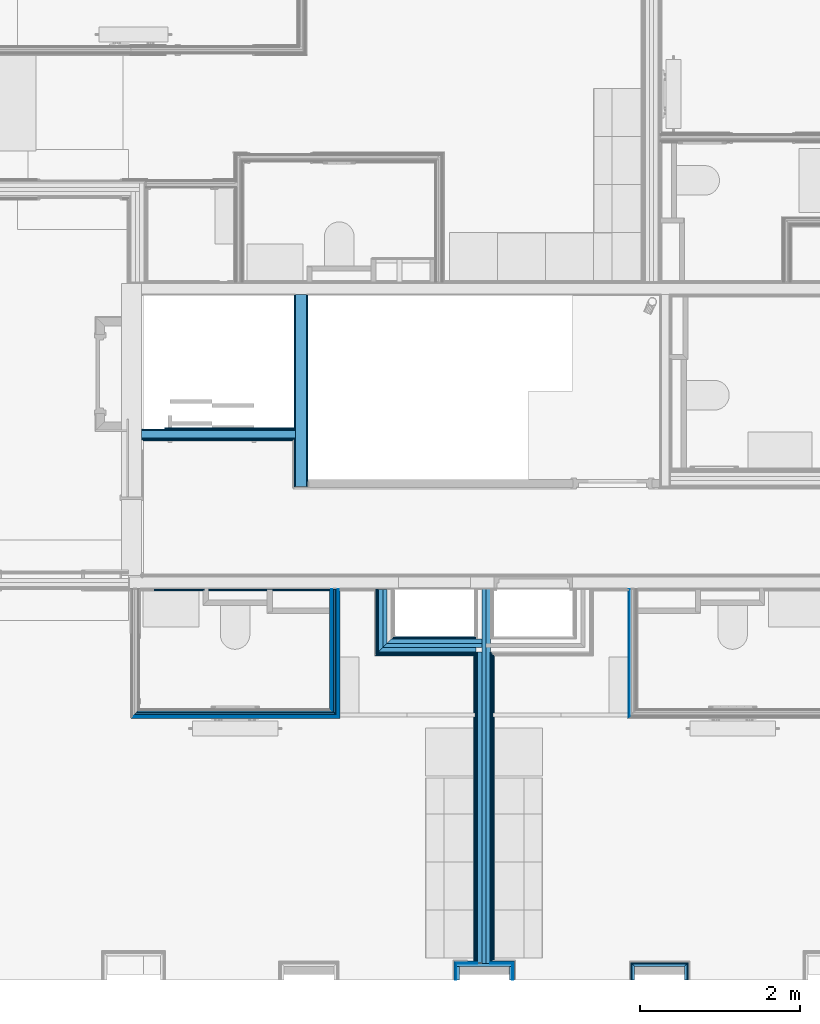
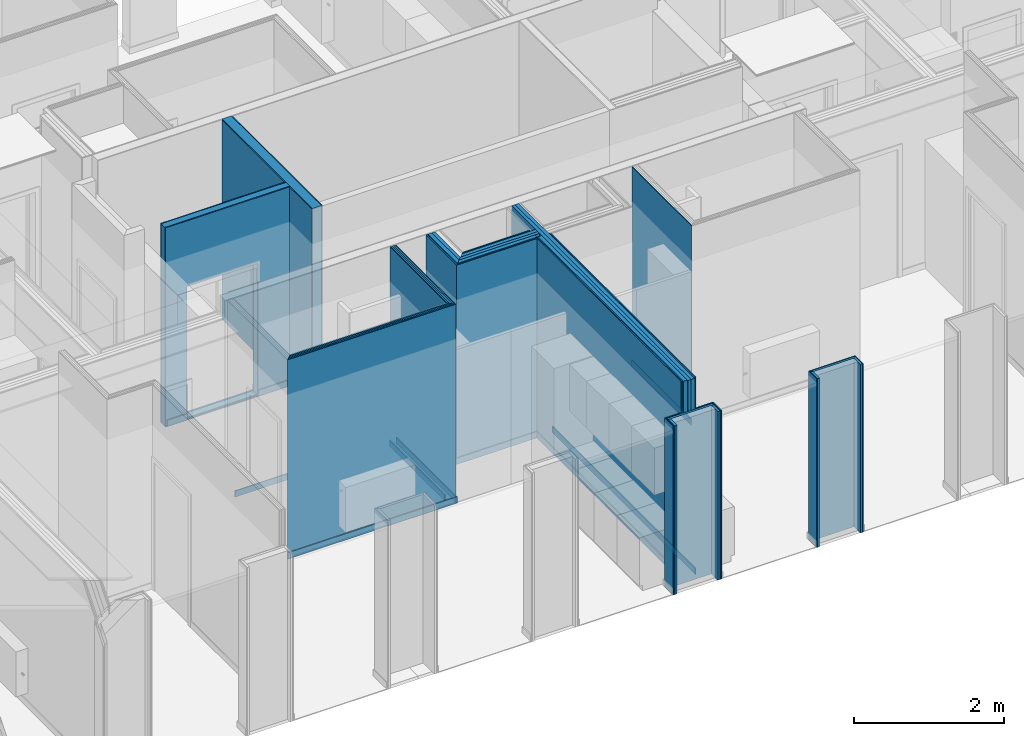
# One storey, part 14 of 65: 62 building element parts, 1 opening, 15 elements without a shape of their own.
"""IFC2X3 building model written with IfcOpenShell, lengths in metres."""

import ifcopenshell
import ifcopenshell.guid

model = None  # the IFC model being written
_history = None  # IfcOwnerHistory: only IFC2X3 demands one
_inside = {}  # id of a spatial element -> (the spatial element, [elements in it])
_under = {}  # id of a project, library or spatial element -> (it, [spatial elements below it])
_declared = {}  # id of a project -> (the project, [libraries it declares])
_typed = {}  # id of a type object -> (the type object, [elements of that type])
_made_of = {}  # id of a material, layer set ... -> (it, [elements and type objects made of it])


def new_model(schema):
    """Start an empty IFC model of exactly this schema.

    Asked for "IFC4X3", IfcOpenShell would pick the latest addendum, in which some entities
    have other attributes; the version numbers below select the first issue.
    IFC2X3 requires an IfcOwnerHistory on every rooted entity: one is made here for all.
    """
    global model, _history
    if schema == "IFC4X3":
        model = ifcopenshell.file(schema_version=(4, 3, 0, 0))
    else:
        model = ifcopenshell.file(schema=schema)
    _inside.clear()
    _under.clear()
    _declared.clear()
    _typed.clear()
    _made_of.clear()
    _history = None
    if model.schema == "IFC2X3":
        org = make("IfcOrganization", Name="unknown")
        user = make(
            "IfcPersonAndOrganization",
            ThePerson=make("IfcPerson", FamilyName="unknown"),
            TheOrganization=org,
        )
        app = make(
            "IfcApplication",
            ApplicationDeveloper=org,
            Version="unknown",
            ApplicationFullName="unknown",
            ApplicationIdentifier="unknown",
        )
        _history = make(
            "IfcOwnerHistory",
            OwningUser=user,
            OwningApplication=app,
            ChangeAction="ADDED",
            CreationDate=0,
        )
    return model


def make(cls, **values):
    """One entity of the class cls with the attributes given. An attribute that is None is left unset."""
    return model.create_entity(
        cls, **{name: value for name, value in values.items() if value is not None}
    )


def entity(cls, *values):
    """Any entity or typed value of the class cls, its attributes in the order of the schema. None: left unset."""
    e = model.create_entity(cls)
    for i, value in enumerate(values):
        if value is not None:
            e[i] = value
    return e


def rooted(cls, **values):
    """An entity with a GlobalId (a new one), such as an element, a storey or a relation."""
    return make(cls, GlobalId=ifcopenshell.guid.new(), OwnerHistory=_history, **values)


def si_unit(unit_type, name, prefix=None):
    """IfcSIUnit, for example si_unit("LENGTHUNIT", "METRE", prefix="MILLI")."""
    return make("IfcSIUnit", UnitType=unit_type, Prefix=prefix, Name=name)


def converted_unit(unit_type, name, factor, base, dimensions=None, offset=None):
    """IfcConversionBasedUnit, such as the inch: factor (a typed value) times the base unit."""
    return make(
        "IfcConversionBasedUnit"
        if offset is None
        else "IfcConversionBasedUnitWithOffset",
        ConversionOffset=offset,
        Dimensions=None
        if dimensions is None
        else entity("IfcDimensionalExponents", *dimensions),
        UnitType=unit_type,
        Name=name,
        ConversionFactor=make(
            "IfcMeasureWithUnit", ValueComponent=factor, UnitComponent=base
        ),
    )


def derived_unit(unit_type, elements):
    """IfcDerivedUnit: a product of units, each with its exponent."""
    return make(
        "IfcDerivedUnit",
        Elements=[
            make("IfcDerivedUnitElement", Unit=unit, Exponent=power)
            for unit, power in elements
        ],
        UnitType=unit_type,
    )


def money_unit(currency):
    """IfcMonetaryUnit."""
    return make("IfcMonetaryUnit", Currency=currency)


def assignment(units):
    """IfcUnitAssignment: the units of a project."""
    return None if units is None else make("IfcUnitAssignment", Units=units)


def point(xyz):
    """IfcCartesianPoint."""
    return None if xyz is None else make("IfcCartesianPoint", Coordinates=xyz)


def direction(xyz):
    """IfcDirection."""
    return None if xyz is None else make("IfcDirection", DirectionRatios=xyz)


def frame(location, z_axis=None, x_axis=None):
    """IfcAxis2Placement3D, a coordinate frame: its origin and axes. An axis left out is left unset."""
    return make(
        "IfcAxis2Placement3D",
        Location=point(location),
        Axis=direction(z_axis),
        RefDirection=direction(x_axis),
    )


def frame_2d(location, x_axis=None):
    """IfcAxis2Placement2D, a coordinate frame in the plane: its origin and x axis."""
    return make(
        "IfcAxis2Placement2D", Location=point(location), RefDirection=direction(x_axis)
    )


def origin_with_axes():
    """The frame at (0, 0, 0) with the z axis (0, 0, 1) and the x axis (1, 0, 0) written out."""
    return frame((0.0, 0.0, 0.0), z_axis=(0.0, 0.0, 1.0), x_axis=(1.0, 0.0, 0.0))


def place(relative_to, where):
    """IfcLocalPlacement: puts the frame where relative to a parent placement (None: the world)."""
    return make(
        "IfcLocalPlacement", PlacementRelTo=relative_to, RelativePlacement=where
    )


def context(
    kind, dimensions, precision=None, world=None, true_north=None, identifier=None
):
    """IfcGeometricRepresentationContext, for example the 3D "Model" context."""
    return make(
        "IfcGeometricRepresentationContext",
        ContextIdentifier=identifier,
        ContextType=kind,
        CoordinateSpaceDimension=dimensions,
        Precision=precision,
        WorldCoordinateSystem=world,
        TrueNorth=true_north,
    )


def subcontext(parent, identifier, kind, view, scale=None):
    """IfcGeometricRepresentationSubContext, for example "Body" below "Model"."""
    return make(
        "IfcGeometricRepresentationSubContext",
        ContextIdentifier=identifier,
        ContextType=kind,
        ParentContext=parent,
        TargetScale=scale,
        TargetView=view,
    )


def project(units=None, contexts=None):
    """IfcProject with its units and contexts."""
    return rooted(
        "IfcProject",
        Name="project",
        RepresentationContexts=contexts,
        UnitsInContext=assignment(units),
    )


def spatial(cls, under=None, at=None, **own):
    """A site, building, storey or space (cls), placed at a placement, below another one or the project."""
    s = rooted(cls, ObjectPlacement=at, **own)
    if under is not None:
        _under.setdefault(under.id(), (under, []))[1].append(s)
    return s


def polyline(points):
    """IfcPolyline through the points."""
    return make("IfcPolyline", Points=[point(p) for p in points])


def profile(cls, at=None, kind="AREA", **sizes):
    """A parametric profile (cls). Its sizes go by their IFC names, for example OverallWidth=200.0."""
    return make(cls, ProfileType=kind, Position=at, **sizes)


def rectangle(**sizes):
    """IfcRectangleProfileDef."""
    return profile("IfcRectangleProfileDef", **sizes)


def outline(outer, holes=None, kind="AREA"):
    """IfcArbitraryClosedProfileDef: a profile drawn as a closed curve; with holes, ...WithVoids."""
    if holes is None:
        return make("IfcArbitraryClosedProfileDef", ProfileType=kind, OuterCurve=outer)
    return make(
        "IfcArbitraryProfileDefWithVoids",
        ProfileType=kind,
        OuterCurve=outer,
        InnerCurves=holes,
    )


def extrude(swept, where, along, depth):
    """IfcExtrudedAreaSolid: the profile swept, set in the frame where, extruded along a direction by depth."""
    return make(
        "IfcExtrudedAreaSolid",
        SweptArea=swept,
        Position=where,
        ExtrudedDirection=direction(along),
        Depth=depth,
    )


def shape(context_of_items, identifier, shape_type, items):
    """IfcShapeRepresentation: the items that make up one representation, for example the "Body"."""
    return make(
        "IfcShapeRepresentation",
        ContextOfItems=context_of_items,
        RepresentationIdentifier=identifier,
        RepresentationType=shape_type,
        Items=items,
    )


def material(Name=None, Category=None):
    """IfcMaterial."""
    return make("IfcMaterial", Name=Name, Category=Category)


def made_of(thing, what):
    """Note that an element or type object is made of a material, layer set ...; save() writes the relation."""
    if what is not None:
        _made_of.setdefault(what.id(), (what, []))[1].append(thing)
    return thing


def type_object(cls, material=None, **own):
    """A type object (cls), such as IfcWallType, which elements share."""
    return made_of(rooted(cls, **own), material)


def element(
    cls,
    number,
    at=None,
    inside=None,
    cuts=None,
    type_object=None,
    material=None,
    context=None,
    identifier="Body",
    shape_type=None,
    held_by="IfcProductDefinitionShape",
    body=None,
    shapes=None,
    **own,
):
    """One element of the class cls, such as IfcWall. Its Tag is "e" and its number.

    at: its placement. inside: the storey or other place that contains it. cuts: it is an
    opening in that element (IfcRelVoidsElement). A single representation is given by context,
    identifier, shape_type and body (its items); several are given by shapes. held_by: the class
    of the entity that holds the representations. save() writes the other relations.
    """
    e = rooted(cls, Tag="e%d" % number, ObjectPlacement=at, **own)
    if body is not None:
        shapes = [shape(context, identifier, shape_type, body)]
    if shapes is not None:
        e.Representation = make(held_by, Representations=shapes)
    if inside is not None:
        _inside.setdefault(inside.id(), (inside, []))[1].append(e)
    if cuts is not None:
        rooted(
            "IfcRelVoidsElement", RelatingBuildingElement=cuts, RelatedOpeningElement=e
        )
    if type_object is not None:
        _typed.setdefault(type_object.id(), (type_object, []))[1].append(e)
    return made_of(e, material)


def aggregate(whole, parts):
    """IfcRelAggregates: a whole, such as a stair, and the parts it consists of."""
    return rooted("IfcRelAggregates", RelatingObject=whole, RelatedObjects=parts)


def save(model, path):
    """Write the relations noted so far, then the file.

    IfcRelAggregates (storeys below a building ...), IfcRelContainedInSpatialStructure (elements
    in a storey), IfcRelDefinesByType, IfcRelAssociatesMaterial and IfcRelDeclares: one each for
    every whole, place, type object, material and project.
    """
    for whole, parts in _under.values():
        aggregate(whole, parts)
    for where, things in _inside.values():
        rooted(
            "IfcRelContainedInSpatialStructure",
            RelatedElements=things,
            RelatingStructure=where,
        )
    for kind, things in _typed.values():
        rooted("IfcRelDefinesByType", RelatedObjects=things, RelatingType=kind)
    for what, things in _made_of.values():
        rooted("IfcRelAssociatesMaterial", RelatedObjects=things, RelatingMaterial=what)
    for by, libraries in _declared.values():
        rooted("IfcRelDeclares", RelatingContext=by, RelatedDefinitions=libraries)
    model.write(path)


model = new_model("IFC2X3")

# Units and contexts
model_context = context("Model", 3, precision=1e-05, world=origin_with_axes(), true_north=direction((0.0, 1.0)))
body_context = subcontext(model_context, "Body", "Model", "MODEL_VIEW", scale=1.0)
ifc_project = project(units=[si_unit("LENGTHUNIT", "METRE"), si_unit("AREAUNIT", "SQUARE_METRE"), si_unit("VOLUMEUNIT", "CUBIC_METRE"), si_unit("ABSORBEDDOSEUNIT", "GRAY"), si_unit("AMOUNTOFSUBSTANCEUNIT", "MOLE"), si_unit("DOSEEQUIVALENTUNIT", "SIEVERT"), si_unit("ELECTRICCAPACITANCEUNIT", "FARAD"), si_unit("ELECTRICCHARGEUNIT", "COULOMB"), si_unit("ELECTRICCONDUCTANCEUNIT", "SIEMENS"), si_unit("ELECTRICCURRENTUNIT", "AMPERE"), si_unit("ELECTRICRESISTANCEUNIT", "OHM"), si_unit("ELECTRICVOLTAGEUNIT", "VOLT"), si_unit("ENERGYUNIT", "JOULE"), si_unit("FORCEUNIT", "NEWTON"), si_unit("FREQUENCYUNIT", "HERTZ"), si_unit("ILLUMINANCEUNIT", "LUX"), si_unit("INDUCTANCEUNIT", "HENRY"), si_unit("LUMINOUSFLUXUNIT", "LUMEN"), si_unit("LUMINOUSINTENSITYUNIT", "CANDELA"), si_unit("MAGNETICFLUXDENSITYUNIT", "TESLA"), si_unit("MAGNETICFLUXUNIT", "WEBER"), si_unit("MASSUNIT", "GRAM"), converted_unit("PLANEANGLEUNIT", "degree", entity("IfcReal", 0.0174532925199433), si_unit("PLANEANGLEUNIT", "RADIAN"), dimensions=[0, 0, 0, 0, 0, 0, 0]), si_unit("POWERUNIT", "WATT"), si_unit("PRESSUREUNIT", "PASCAL"), si_unit("RADIOACTIVITYUNIT", "BECQUEREL"), si_unit("SOLIDANGLEUNIT", "STERADIAN"), si_unit("THERMODYNAMICTEMPERATUREUNIT", "KELVIN"), si_unit("TIMEUNIT", "SECOND"), derived_unit("ACCELERATIONUNIT", [(si_unit("LENGTHUNIT", "METRE"), 1), (si_unit("TIMEUNIT", "SECOND"), -2)]), derived_unit("ANGULARVELOCITYUNIT", [(converted_unit("PLANEANGLEUNIT", "degree", entity("IfcReal", 0.0174532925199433), si_unit("PLANEANGLEUNIT", "RADIAN"), dimensions=[0, 0, 0, 0, 0, 0, 0]), 1), (si_unit("TIMEUNIT", "SECOND"), -1)]), derived_unit("CURVATUREUNIT", [(converted_unit("PLANEANGLEUNIT", "degree", entity("IfcReal", 0.0174532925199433), si_unit("PLANEANGLEUNIT", "RADIAN"), dimensions=[0, 0, 0, 0, 0, 0, 0]), 1), (si_unit("LENGTHUNIT", "METRE"), -1)]), derived_unit("DYNAMICVISCOSITYUNIT", [(si_unit("PRESSUREUNIT", "PASCAL"), 1), (si_unit("TIMEUNIT", "SECOND"), 1)]), derived_unit("HEATFLUXDENSITYUNIT", [(si_unit("POWERUNIT", "WATT"), 1), (si_unit("LENGTHUNIT", "METRE"), -2)]), derived_unit("HEATINGVALUEUNIT", [(si_unit("ENERGYUNIT", "JOULE"), 1), (si_unit("MASSUNIT", "GRAM"), -1)]), derived_unit("INTEGERCOUNTRATEUNIT", [(si_unit("TIMEUNIT", "SECOND"), -1)]), derived_unit("IONCONCENTRATIONUNIT", [(si_unit("MASSUNIT", "GRAM"), 1), (si_unit("VOLUMEUNIT", "CUBIC_METRE"), -1)]), derived_unit("ISOTHERMALMOISTURECAPACITYUNIT", [(si_unit("VOLUMEUNIT", "CUBIC_METRE"), 1), (si_unit("MASSUNIT", "GRAM"), -1)]), derived_unit("KINEMATICVISCOSITYUNIT", [(si_unit("AREAUNIT", "SQUARE_METRE"), 1), (si_unit("TIMEUNIT", "SECOND"), -1)]), derived_unit("LINEARFORCEUNIT", [(si_unit("FORCEUNIT", "NEWTON"), 1), (si_unit("LENGTHUNIT", "METRE"), -1)]), derived_unit("LINEARMOMENTUNIT", [(si_unit("FORCEUNIT", "NEWTON"), 1), (si_unit("LENGTHUNIT", "METRE"), -1)]), derived_unit("LINEARSTIFFNESSUNIT", [(si_unit("FORCEUNIT", "NEWTON"), 1), (si_unit("LENGTHUNIT", "METRE"), -1)]), derived_unit("LINEARVELOCITYUNIT", [(si_unit("LENGTHUNIT", "METRE"), 1), (si_unit("TIMEUNIT", "SECOND"), -1)]), derived_unit("LUMINOUSINTENSITYDISTRIBUTIONUNIT", [(si_unit("LUMINOUSINTENSITYUNIT", "CANDELA"), 1), (si_unit("LUMINOUSFLUXUNIT", "LUMEN"), -1)]), derived_unit("MASSDENSITYUNIT", [(si_unit("MASSUNIT", "GRAM"), 1), (si_unit("VOLUMEUNIT", "CUBIC_METRE"), -1)]), derived_unit("MASSFLOWRATEUNIT", [(si_unit("MASSUNIT", "GRAM"), 1), (si_unit("TIMEUNIT", "SECOND"), -1)]), derived_unit("MASSPERLENGTHUNIT", [(si_unit("MASSUNIT", "GRAM"), 1), (si_unit("LENGTHUNIT", "METRE"), -1)]), derived_unit("MODULUSOFELASTICITYUNIT", [(si_unit("FORCEUNIT", "NEWTON"), 1), (si_unit("AREAUNIT", "SQUARE_METRE"), -1)]), derived_unit("MODULUSOFLINEARSUBGRADEREACTIONUNIT", [(si_unit("FORCEUNIT", "NEWTON"), 1), (si_unit("LENGTHUNIT", "METRE"), -2)]), derived_unit("MODULUSOFROTATIONALSUBGRADEREACTIONUNIT", [(si_unit("FORCEUNIT", "NEWTON"), 1), (si_unit("LENGTHUNIT", "METRE"), 1)]), derived_unit("MODULUSOFSUBGRADEREACTIONUNIT", [(si_unit("FORCEUNIT", "NEWTON"), 1), (si_unit("VOLUMEUNIT", "CUBIC_METRE"), -1)]), derived_unit("MOISTUREDIFFUSIVITYUNIT", [(si_unit("VOLUMEUNIT", "CUBIC_METRE"), 1), (si_unit("TIMEUNIT", "SECOND"), -1)]), derived_unit("MOLECULARWEIGHTUNIT", [(si_unit("MASSUNIT", "GRAM"), 1), (si_unit("AMOUNTOFSUBSTANCEUNIT", "MOLE"), -1)]), derived_unit("PLANARFORCEUNIT", [(si_unit("FORCEUNIT", "NEWTON"), 1), (si_unit("LENGTHUNIT", "METRE"), -2)]), derived_unit("ROTATIONALFREQUENCYUNIT", [(si_unit("TIMEUNIT", "SECOND"), -1)]), derived_unit("ROTATIONALMASSUNIT", [(si_unit("MASSUNIT", "GRAM"), 1), (si_unit("LENGTHUNIT", "METRE"), 2)]), derived_unit("ROTATIONALSTIFFNESSUNIT", [(si_unit("FORCEUNIT", "NEWTON"), 1), (si_unit("LENGTHUNIT", "METRE"), 1), (converted_unit("PLANEANGLEUNIT", "degree", entity("IfcReal", 0.0174532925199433), si_unit("PLANEANGLEUNIT", "RADIAN"), dimensions=[0, 0, 0, 0, 0, 0, 0]), -1)]), derived_unit("SECTIONAREAINTEGRALUNIT", [(si_unit("LENGTHUNIT", "METRE"), 5)]), derived_unit("SECTIONMODULUSUNIT", [(si_unit("LENGTHUNIT", "METRE"), 3)]), derived_unit("SHEARMODULUSUNIT", [(si_unit("FORCEUNIT", "NEWTON"), 1), (si_unit("AREAUNIT", "SQUARE_METRE"), -1)]), derived_unit("SOUNDPOWERUNIT", [(si_unit("ENERGYUNIT", "JOULE"), 1), (si_unit("TIMEUNIT", "SECOND"), -1)]), derived_unit("SPECIFICHEATCAPACITYUNIT", [(si_unit("FORCEUNIT", "NEWTON"), 1), (si_unit("MASSUNIT", "GRAM"), -1), (si_unit("THERMODYNAMICTEMPERATUREUNIT", "KELVIN"), -1)]), derived_unit("TEMPERATUREGRADIENTUNIT", [(si_unit("THERMODYNAMICTEMPERATUREUNIT", "KELVIN"), 1), (si_unit("LENGTHUNIT", "METRE"), -1)]), derived_unit("THERMALADMITTANCEUNIT", [(si_unit("POWERUNIT", "WATT"), 1), (si_unit("AREAUNIT", "SQUARE_METRE"), -1), (si_unit("THERMODYNAMICTEMPERATUREUNIT", "KELVIN"), -1)]), derived_unit("THERMALCONDUCTANCEUNIT", [(si_unit("POWERUNIT", "WATT"), 1), (si_unit("LENGTHUNIT", "METRE"), -1), (si_unit("THERMODYNAMICTEMPERATUREUNIT", "KELVIN"), -1)]), derived_unit("THERMALEXPANSIONCOEFFICIENTUNIT", [(si_unit("THERMODYNAMICTEMPERATUREUNIT", "KELVIN"), -1)]), derived_unit("THERMALRESISTANCEUNIT", [(si_unit("AREAUNIT", "SQUARE_METRE"), 1), (si_unit("POWERUNIT", "WATT"), -1)]), derived_unit("THERMALTRANSMITTANCEUNIT", [(si_unit("POWERUNIT", "WATT"), 1), (si_unit("AREAUNIT", "SQUARE_METRE"), -1), (si_unit("THERMODYNAMICTEMPERATUREUNIT", "KELVIN"), -1)]), derived_unit("TORQUEUNIT", [(si_unit("FORCEUNIT", "NEWTON"), 1), (si_unit("LENGTHUNIT", "METRE"), 1)]), derived_unit("VAPORPERMEABILITYUNIT", [(si_unit("MASSUNIT", "GRAM"), 1), (si_unit("TIMEUNIT", "SECOND"), -1)]), derived_unit("VOLUMETRICFLOWRATEUNIT", [(si_unit("VOLUMEUNIT", "CUBIC_METRE"), 1), (si_unit("TIMEUNIT", "SECOND"), -1)]), derived_unit("WARPINGCONSTANTUNIT", [(si_unit("LENGTHUNIT", "METRE"), 6)]), derived_unit("WARPINGMOMENTUNIT", [(si_unit("FORCEUNIT", "NEWTON"), 1), (si_unit("LENGTHUNIT", "METRE"), 2)]), money_unit("GBP")], contexts=[model_context])

# Site, building, storey
site_placement = place(None, origin_with_axes())
site = spatial("IfcSite", under=ifc_project, at=site_placement, Name="Site", CompositionType="ELEMENT")
building_placement = place(site_placement, origin_with_axes())
building = spatial("IfcBuilding", under=site, at=building_placement, Name="Building01", CompositionType="ELEMENT")
storey_placement = place(building_placement, frame((0.0, 0.0, 8.64), z_axis=(0.0, 0.0, 1.0), x_axis=(1.0, 0.0, 0.0)))
storey = spatial("IfcBuildingStorey", under=building, at=storey_placement, Name="2F", CompositionType="ELEMENT", Elevation=8.64)

# Wall, opening, building element parts
wall_type_1 = type_object("IfcWallType", Name="SHE_A-Walls_Type04a_BlockworkWall_130mm", PredefinedType="NOTDEFINED")
wall_1_placement = place(storey_placement, frame((11.145, 6.965, 0.0), z_axis=(0.0, 0.0, 1.0), x_axis=(-1.0, 0.0, 0.0)))
wall_1 = element("IfcWall", 1, at=wall_1_placement, inside=storey, type_object=wall_type_1, Name="4A", ObjectType="SHE_A-Walls_Type04a_BlockworkWall_130mm")
opening_placement = place(wall_1_placement, frame((0.5, -0.03, 0.03), z_axis=(0.0, 0.0, 1.0), x_axis=(1.0, 0.0, 0.0)))
element("IfcOpeningElement", 2, at=opening_placement, cuts=wall_1, Name="Opening", ObjectType="Opening", context=body_context, shape_type="SweptSolid", body=[
    extrude(rectangle(XDim=2.14, YDim=1.09, at=frame_2d((-0.545, 1.07), x_axis=(0.0, -1.0))), frame((0.0, 0.0, 0.0), z_axis=(0.0, 1.0, 0.0), x_axis=(-1.0, 0.0, 0.0)), (0.0, 0.0, 1.0), 0.16),
])
ifc_material_1 = material(Name="A_BSUK_Walls_Timber")
placement_1 = place(wall_1_placement, origin_with_axes())
building_element_part_1 = element("IfcBuildingElementPart", 3, at=placement_1, material=ifc_material_1, Name="1", context=body_context, shape_type="SweptSolid", body=[
    extrude(outline(polyline([(0.0, -0.015), (0.015, -0.03), (1.633302, -0.03), (1.633302, -0.015), (0.0, -0.015)])), frame((0.0, 0.0, 0.015), z_axis=(0.0, 0.0, 1.0), x_axis=(1.0, 0.0, 0.0)), (0.0, 0.0, 1.0), 0.1),
])
ifc_material_2 = material(Name="A_BSUK_WallInternal_Finishes_Plasterboard")
building_element_part_2 = element("IfcBuildingElementPart", 4, at=placement_1, material=ifc_material_2, Name="2", context=body_context, shape_type="SweptSolid", body=[
    extrude(outline(polyline([(1.92, 0.0), (0.0, 0.0), (0.015, -0.015), (1.92, -0.015), (1.92, 0.0)])), origin_with_axes(), (0.0, 0.0, 1.0), 3.24),
])
ifc_material_3 = material(Name="A_BSUK_WallsInternal_Block")
building_element_part_3 = element("IfcBuildingElementPart", 5, at=placement_1, material=ifc_material_3, Name="3", context=body_context, shape_type="SweptSolid", body=[
    extrude(rectangle(XDim=1.92, YDim=0.1, at=frame_2d((0.96, 0.05), x_axis=(-1.0, 0.0))), origin_with_axes(), (0.0, 0.0, 1.0), 3.24),
])
ifc_material_4 = material(Name="A_BSUK_WallInternal_Finishes_Plaster")
building_element_part_4 = element("IfcBuildingElementPart", 6, at=placement_1, material=ifc_material_4, Name="4", context=body_context, shape_type="SweptSolid", body=[
    extrude(outline(polyline([(1.92, 0.115), (0.015, 0.115), (0.0, 0.1), (1.92, 0.1), (1.92, 0.115)])), origin_with_axes(), (0.0, 0.0, 1.0), 3.24),
])
building_element_part_5 = element("IfcBuildingElementPart", 7, at=placement_1, material=ifc_material_1, Name="5", context=body_context, shape_type="SweptSolid", body=[
    extrude(outline(polyline([(1.9, 0.13), (0.03, 0.13), (0.015, 0.115), (1.9, 0.115), (1.9, 0.13)])), frame((0.0, 0.0, 0.015), z_axis=(0.0, 0.0, 1.0), x_axis=(1.0, 0.0, 0.0)), (0.0, 0.0, 1.0), 0.1),
])
aggregate(wall_1, [building_element_part_1, building_element_part_2, building_element_part_3, building_element_part_4, building_element_part_5])

# Wall, building element parts
wall_type_2 = type_object("IfcWallType", Name="SHE_A-Walls_Type03a_BlockworkWall_170mm", PredefinedType="NOTDEFINED")
wall_2_placement = place(storey_placement, frame((11.145, 6.263, 0.0), z_axis=(0.0, 0.0, 1.0), x_axis=(0.0, 1.0, 0.0)))
wall_2 = element("IfcWall", 8, at=wall_2_placement, inside=storey, type_object=wall_type_2, Name="4B", ObjectType="SHE_A-Walls_Type03a_BlockworkWall_170mm")
placement_2 = place(wall_2_placement, origin_with_axes())
building_element_part_6 = element("IfcBuildingElementPart", 9, at=placement_2, material=ifc_material_2, Name="2", context=body_context, shape_type="SweptSolid", body=[
    extrude(rectangle(XDim=2.387, YDim=0.015, at=frame_2d((1.1935, -0.1475), x_axis=(-1.0, 0.0))), origin_with_axes(), (0.0, 0.0, 1.0), 3.24),
])
building_element_part_7 = element("IfcBuildingElementPart", 10, at=placement_2, material=ifc_material_3, Name="3", context=body_context, shape_type="SweptSolid", body=[
    extrude(rectangle(XDim=2.402, YDim=0.14, at=frame_2d((1.201, -0.07), x_axis=(-1.0, 0.0))), origin_with_axes(), (0.0, 0.0, 1.0), 3.24),
])
building_element_part_8 = element("IfcBuildingElementPart", 11, at=placement_2, material=ifc_material_4, Name="4", context=body_context, shape_type="SweptSolid", body=[
    extrude(outline(polyline([(0.587, 0.015), (0.0, 0.015), (0.0, 0.0), (0.602, 0.0), (0.587, 0.015)])), origin_with_axes(), (0.0, 0.0, 1.0), 3.24),
])
building_element_part_9 = element("IfcBuildingElementPart", 12, at=placement_2, material=ifc_material_4, Name="5", context=body_context, shape_type="SweptSolid", body=[
    extrude(outline(polyline([(2.387, 0.015), (0.717, 0.015), (0.702, 0.0), (2.387, 0.0), (2.387, 0.015)])), origin_with_axes(), (0.0, 0.0, 1.0), 3.24),
])
aggregate(wall_2, [building_element_part_6, building_element_part_7, building_element_part_8, building_element_part_9])

wall_type_3 = type_object("IfcWallType", Name="SHE_A-Walls_Type06d_ExternalWallInsulation_48mm", PredefinedType="NOTDEFINED")
wall_3_placement = place(storey_placement, frame((15.383, 0.1, 0.0), z_axis=(0.0, 0.0, 1.0), x_axis=(0.0, 1.0, 0.0)))
wall_3 = element("IfcWall", 13, at=wall_3_placement, inside=storey, type_object=wall_type_3, Name="6D", ObjectType="SHE_A-Walls_Type06d_ExternalWallInsulation_48mm")
ifc_material_5 = material(Name="A_BSUK_Insulation")
placement_3 = place(wall_3_placement, origin_with_axes())
building_element_part_10 = element("IfcBuildingElementPart", 14, at=placement_3, material=ifc_material_5, Name="1", context=body_context, shape_type="SweptSolid", body=[
    extrude(outline(polyline([(0.206, 0.036), (0.0, 0.036), (0.0, 0.0), (0.17, 0.0), (0.206, 0.036)])), origin_with_axes(), (0.0, 0.0, 1.0), 2.74),
])
building_element_part_11 = element("IfcBuildingElementPart", 15, at=placement_3, material=ifc_material_2, Name="2", context=body_context, shape_type="SweptSolid", body=[
    extrude(outline(polyline([(0.218, 0.048), (0.0, 0.048), (0.0, 0.035), (0.205, 0.035), (0.218, 0.048)])), origin_with_axes(), (0.0, 0.0, 1.0), 2.74),
])
aggregate(wall_3, [building_element_part_10, building_element_part_11])

wall_4_placement = place(storey_placement, frame((15.383, 0.27, 0.0), z_axis=(0.0, 0.0, 1.0), x_axis=(1.0, 0.0, 0.0)))
wall_4 = element("IfcWall", 16, at=wall_4_placement, inside=storey, type_object=wall_type_3, Name="6D", ObjectType="SHE_A-Walls_Type06d_ExternalWallInsulation_48mm")
placement_4 = place(wall_4_placement, origin_with_axes())
building_element_part_12 = element("IfcBuildingElementPart", 17, at=placement_4, material=ifc_material_5, Name="1", context=body_context, shape_type="SweptSolid", body=[
    extrude(outline(polyline([(0.66, 0.036), (-0.036, 0.036), (0.0, 0.0), (0.624, 0.0), (0.66, 0.036)])), origin_with_axes(), (0.0, 0.0, 1.0), 2.74),
])
building_element_part_13 = element("IfcBuildingElementPart", 18, at=placement_4, material=ifc_material_2, Name="2", context=body_context, shape_type="SweptSolid", body=[
    extrude(outline(polyline([(0.672, 0.048), (-0.048, 0.048), (-0.035, 0.035), (0.659, 0.035), (0.672, 0.048)])), origin_with_axes(), (0.0, 0.0, 1.0), 2.74),
])
aggregate(wall_4, [building_element_part_12, building_element_part_13])

wall_5_placement = place(storey_placement, frame((16.007, 0.27, 0.0), z_axis=(0.0, 0.0, 1.0), x_axis=(0.0, -1.0, 0.0)))
wall_5 = element("IfcWall", 19, at=wall_5_placement, inside=storey, type_object=wall_type_3, Name="6D", ObjectType="SHE_A-Walls_Type06d_ExternalWallInsulation_48mm")
placement_5 = place(wall_5_placement, origin_with_axes())
building_element_part_14 = element("IfcBuildingElementPart", 20, at=placement_5, material=ifc_material_5, Name="1", context=body_context, shape_type="SweptSolid", body=[
    extrude(outline(polyline([(-0.036, 0.036), (0.0, 0.0), (0.17, 0.0), (0.17, 0.036), (-0.036, 0.036)])), origin_with_axes(), (0.0, 0.0, 1.0), 2.74),
])
building_element_part_15 = element("IfcBuildingElementPart", 21, at=placement_5, material=ifc_material_2, Name="2", context=body_context, shape_type="SweptSolid", body=[
    extrude(outline(polyline([(-0.048, 0.048), (-0.035, 0.035), (0.17, 0.035), (0.17, 0.048), (-0.048, 0.048)])), origin_with_axes(), (0.0, 0.0, 1.0), 2.74),
])
aggregate(wall_5, [building_element_part_14, building_element_part_15])

wall_type_4 = type_object("IfcWallType", Name="SHE_A-Walls_Type01c_Partywall_225mm_twin_tall", PredefinedType="NOTDEFINED")
wall_6_placement = place(storey_placement, frame((12.288, 4.302428, 0.0), z_axis=(0.0, 0.0, 1.0), x_axis=(1.0, 0.0, 0.0)))
wall_6 = element("IfcWall", 22, at=wall_6_placement, inside=storey, type_object=wall_type_4, Name="1C", ObjectType="SHE_A-Walls_Type01c_Partywall_225mm_twin_tall")
placement_6 = place(wall_6_placement, origin_with_axes())
building_element_part_16 = element("IfcBuildingElementPart", 23, at=placement_6, material=ifc_material_1, Name="1", context=body_context, shape_type="SweptSolid", body=[
    extrude(rectangle(XDim=1.2375, YDim=0.015, at=frame_2d((0.46575, -0.1455), x_axis=(-1.0, 0.0))), frame((0.0, 0.0, 0.015), z_axis=(0.0, 0.0, 1.0), x_axis=(1.0, 0.0, 0.0)), (0.0, 0.0, 1.0), 0.1),
])
building_element_part_17 = element("IfcBuildingElementPart", 24, at=placement_6, material=ifc_material_2, Name="2", context=body_context, shape_type="SweptSolid", body=[
    extrude(outline(polyline([(1.0995, -0.123), (-0.123, -0.123), (-0.138, -0.138), (1.0995, -0.138), (1.0995, -0.123)])), origin_with_axes(), (0.0, 0.0, 1.0), 3.24),
])
building_element_part_18 = element("IfcBuildingElementPart", 25, at=placement_6, material=ifc_material_2, Name="3", context=body_context, shape_type="SweptSolid", body=[
    extrude(outline(polyline([(1.1145, -0.108), (-0.108, -0.108), (-0.123, -0.123), (1.1145, -0.123), (1.1145, -0.108)])), origin_with_axes(), (0.0, 0.0, 1.0), 3.24),
])
ifc_material_6 = material(Name="Air Cavity")
building_element_part_19 = element("IfcBuildingElementPart", 26, at=placement_6, material=ifc_material_6, Name="4", context=body_context, shape_type="SweptSolid", body=[
    extrude(outline(polyline([(1.1145, -0.05), (-0.05, -0.05), (-0.108, -0.108), (1.1145, -0.108), (1.1145, -0.05)])), origin_with_axes(), (0.0, 0.0, 1.0), 3.24),
])
building_element_part_20 = element("IfcBuildingElementPart", 27, at=placement_6, material=ifc_material_5, Name="5", context=body_context, shape_type="SweptSolid", body=[
    extrude(outline(polyline([(1.1875, 0.0), (0.0, 0.0), (-0.05, -0.05), (1.1875, -0.05), (1.1875, 0.0)])), origin_with_axes(), (0.0, 0.0, 1.0), 3.24),
])
building_element_part_21 = element("IfcBuildingElementPart", 28, at=placement_6, material=ifc_material_6, Name="6", context=body_context, shape_type="SweptSolid", body=[
    extrude(outline(polyline([(1.1875, 0.057), (0.057, 0.057), (0.0, 0.0), (1.1875, 0.0), (1.1875, 0.057)])), origin_with_axes(), (0.0, 0.0, 1.0), 3.24),
])
building_element_part_22 = element("IfcBuildingElementPart", 29, at=placement_6, material=ifc_material_2, Name="7", context=body_context, shape_type="SweptSolid", body=[
    extrude(outline(polyline([(1.1145, 0.072), (0.072, 0.072), (0.057, 0.057), (1.1145, 0.057), (1.1145, 0.072)])), origin_with_axes(), (0.0, 0.0, 1.0), 3.24),
])
building_element_part_23 = element("IfcBuildingElementPart", 30, at=placement_6, material=ifc_material_2, Name="8", context=body_context, shape_type="SweptSolid", body=[
    extrude(outline(polyline([(1.1145, 0.087), (0.087, 0.087), (0.072, 0.072), (1.1145, 0.072), (1.1145, 0.087)])), origin_with_axes(), (0.0, 0.0, 1.0), 3.24),
])
aggregate(wall_6, [building_element_part_16, building_element_part_17, building_element_part_18, building_element_part_19, building_element_part_20, building_element_part_21, building_element_part_22, building_element_part_23])

wall_7_placement = place(storey_placement, frame((13.5005, 4.995, 0.0), z_axis=(0.0, 0.0, 1.0), x_axis=(0.0, -1.0, 0.0)))
wall_7 = element("IfcWall", 31, at=wall_7_placement, inside=storey, type_object=wall_type_4, Name="1C", ObjectType="SHE_A-Walls_Type01c_Partywall_225mm_twin_tall")
placement_7 = place(wall_7_placement, origin_with_axes())
building_element_part_24 = element("IfcBuildingElementPart", 32, at=placement_7, material=ifc_material_1, Name="1", context=body_context, shape_type="SweptSolid", body=[
    extrude(rectangle(XDim=3.831428, YDim=0.015, at=frame_2d((2.746286, -0.1205), x_axis=(-1.0, 0.0))), frame((0.0, 0.0, 0.015), z_axis=(0.0, 0.0, 1.0), x_axis=(1.0, 0.0, 0.0)), (0.0, 0.0, 1.0), 0.1),
])
building_element_part_25 = element("IfcBuildingElementPart", 33, at=placement_7, material=ifc_material_2, Name="3", context=body_context, shape_type="SweptSolid", body=[
    extrude(rectangle(XDim=3.846428, YDim=0.015, at=frame_2d((2.738786, -0.1055), x_axis=(-1.0, 0.0))), origin_with_axes(), (0.0, 0.0, 1.0), 3.24),
])
building_element_part_26 = element("IfcBuildingElementPart", 34, at=placement_7, material=ifc_material_2, Name="5", context=body_context, shape_type="SweptSolid", body=[
    extrude(rectangle(XDim=3.876428, YDim=0.015, at=frame_2d((2.738786, -0.0905), x_axis=(-1.0, 0.0))), origin_with_axes(), (0.0, 0.0, 1.0), 3.24),
])
building_element_part_27 = element("IfcBuildingElementPart", 35, at=placement_7, material=ifc_material_6, Name="6", context=body_context, shape_type="SweptSolid", body=[
    extrude(rectangle(XDim=3.876428, YDim=0.058, at=frame_2d((2.738786, -0.054), x_axis=(-1.0, 0.0))), origin_with_axes(), (0.0, 0.0, 1.0), 3.24),
])
building_element_part_28 = element("IfcBuildingElementPart", 36, at=placement_7, material=ifc_material_5, Name="7", context=body_context, shape_type="SweptSolid", body=[
    extrude(rectangle(XDim=4.689, YDim=0.05, at=frame_2d((2.3445, 0.0), x_axis=(-1.0, 0.0))), origin_with_axes(), (0.0, 0.0, 1.0), 3.24),
])
building_element_part_29 = element("IfcBuildingElementPart", 37, at=placement_7, material=ifc_material_6, Name="8", context=body_context, shape_type="SweptSolid", body=[
    extrude(rectangle(XDim=4.689, YDim=0.057, at=frame_2d((2.3445, 0.0535), x_axis=(-1.0, 0.0))), origin_with_axes(), (0.0, 0.0, 1.0), 3.24),
])
building_element_part_30 = element("IfcBuildingElementPart", 38, at=placement_7, material=ifc_material_2, Name="10", context=body_context, shape_type="SweptSolid", body=[
    extrude(rectangle(XDim=3.876428, YDim=0.015, at=frame_2d((2.738786, 0.0895), x_axis=(-1.0, 0.0))), origin_with_axes(), (0.0, 0.0, 1.0), 3.24),
])
building_element_part_31 = element("IfcBuildingElementPart", 39, at=placement_7, material=ifc_material_2, Name="12", context=body_context, shape_type="SweptSolid", body=[
    extrude(rectangle(XDim=3.846428, YDim=0.015, at=frame_2d((2.738786, 0.1045), x_axis=(-1.0, 0.0))), origin_with_axes(), (0.0, 0.0, 1.0), 3.24),
])
building_element_part_32 = element("IfcBuildingElementPart", 40, at=placement_7, material=ifc_material_1, Name="13", context=body_context, shape_type="SweptSolid", body=[
    extrude(rectangle(XDim=3.816428, YDim=0.015, at=frame_2d((2.738786, 0.1195), x_axis=(-1.0, 0.0))), frame((0.0, 0.0, 0.015), z_axis=(0.0, 0.0, 1.0), x_axis=(1.0, 0.0, 0.0)), (0.0, 0.0, 1.0), 0.1),
])
aggregate(wall_7, [building_element_part_24, building_element_part_25, building_element_part_26, building_element_part_27, building_element_part_28, building_element_part_29, building_element_part_30, building_element_part_31, building_element_part_32])

wall_8_placement = place(storey_placement, frame((12.288, 4.98, 0.0), z_axis=(0.0, 0.0, 1.0), x_axis=(0.0, -1.0, 0.0)))
wall_8 = element("IfcWall", 41, at=wall_8_placement, inside=storey, type_object=wall_type_4, Name="1C", ObjectType="SHE_A-Walls_Type01c_Partywall_225mm_twin_tall")
placement_8 = place(wall_8_placement, origin_with_axes())
building_element_part_33 = element("IfcBuildingElementPart", 42, at=placement_8, material=ifc_material_2, Name="3", context=body_context, shape_type="SweptSolid", body=[
    extrude(outline(polyline([(0.800572, -0.123), (0.0, -0.123), (0.0, -0.138), (0.815572, -0.138), (0.800572, -0.123)])), origin_with_axes(), (0.0, 0.0, 1.0), 3.24),
])
building_element_part_34 = element("IfcBuildingElementPart", 43, at=placement_8, material=ifc_material_2, Name="4", context=body_context, shape_type="SweptSolid", body=[
    extrude(outline(polyline([(0.785572, -0.108), (0.0, -0.108), (0.0, -0.123), (0.800572, -0.123), (0.785572, -0.108)])), origin_with_axes(), (0.0, 0.0, 1.0), 3.24),
])
building_element_part_35 = element("IfcBuildingElementPart", 44, at=placement_8, material=ifc_material_6, Name="5", context=body_context, shape_type="SweptSolid", body=[
    extrude(outline(polyline([(0.727572, -0.05), (0.0, -0.05), (0.0, -0.108), (0.785572, -0.108), (0.727572, -0.05)])), origin_with_axes(), (0.0, 0.0, 1.0), 3.24),
])
building_element_part_36 = element("IfcBuildingElementPart", 45, at=placement_8, material=ifc_material_5, Name="6", context=body_context, shape_type="SweptSolid", body=[
    extrude(outline(polyline([(0.677572, 0.0), (0.0, 0.0), (0.0, -0.05), (0.727572, -0.05), (0.677572, 0.0)])), origin_with_axes(), (0.0, 0.0, 1.0), 3.24),
])
aggregate(wall_8, [building_element_part_33, building_element_part_34, building_element_part_35, building_element_part_36])

wall_type_5 = type_object("IfcWallType", Name="SHE_A-Walls_Type05a_Partition_95mm_tall", PredefinedType="NOTDEFINED")
wall_9_placement = place(storey_placement, frame((15.3475, 3.42, 0.0), z_axis=(0.0, 0.0, 1.0), x_axis=(0.0, 1.0, 0.0)))
wall_9 = element("IfcWall", 46, at=wall_9_placement, inside=storey, type_object=wall_type_5, Name="5A", ObjectType="SHE_A-Walls_Type05a_Partition_95mm_tall")
placement_9 = place(wall_9_placement, origin_with_axes())
building_element_part_37 = element("IfcBuildingElementPart", 47, at=placement_9, material=ifc_material_2, Name="6", context=body_context, shape_type="SweptSolid", body=[
    extrude(outline(polyline([(1.56, 0.035), (-0.035, 0.035), (-0.023, 0.023), (1.56, 0.023), (1.56, 0.035)])), origin_with_axes(), (0.0, 0.0, 1.0), 3.24),
])
building_element_part_38 = element("IfcBuildingElementPart", 48, at=placement_9, material=ifc_material_1, Name="7", context=body_context, shape_type="SweptSolid", body=[
    extrude(outline(polyline([(1.545, 0.05), (-0.05, 0.05), (-0.035, 0.035), (1.545, 0.035), (1.545, 0.05)])), frame((0.0, 0.0, 0.015), z_axis=(0.0, 0.0, 1.0), x_axis=(1.0, 0.0, 0.0)), (0.0, 0.0, 1.0), 0.1),
])
aggregate(wall_9, [building_element_part_37, building_element_part_38])

wall_10_placement = place(storey_placement, frame((9.132536, 3.42, 0.0), z_axis=(0.0, 0.0, 1.0), x_axis=(-1.0, 0.0, 0.0)))
wall_10 = element("IfcWall", 49, at=wall_10_placement, inside=storey, type_object=wall_type_5, Name="5A", ObjectType="SHE_A-Walls_Type05a_Partition_95mm_tall")
placement_10 = place(wall_10_placement, origin_with_axes())
building_element_part_39 = element("IfcBuildingElementPart", 50, at=placement_10, material=ifc_material_6, Name="3", context=body_context, shape_type="SweptSolid", body=[
    extrude(outline(polyline([(-2.472, -0.048), (-0.048, -0.048), (-0.025, -0.025), (-2.495, -0.025), (-2.472, -0.048)])), origin_with_axes(), (0.0, 0.0, 1.0), 3.24),
])
building_element_part_40 = element("IfcBuildingElementPart", 51, at=placement_10, material=ifc_material_5, Name="4", context=body_context, shape_type="SweptSolid", body=[
    extrude(outline(polyline([(-2.495, -0.025), (-0.025, -0.025), (0.0, 0.0), (-2.52, 0.0), (-2.495, -0.025)])), origin_with_axes(), (0.0, 0.0, 1.0), 3.24),
])
building_element_part_41 = element("IfcBuildingElementPart", 52, at=placement_10, material=ifc_material_6, Name="5", context=body_context, shape_type="SweptSolid", body=[
    extrude(outline(polyline([(-2.52, 0.0), (0.0, 0.0), (0.023, 0.023), (-2.543, 0.023), (-2.52, 0.0)])), origin_with_axes(), (0.0, 0.0, 1.0), 3.24),
])
building_element_part_42 = element("IfcBuildingElementPart", 53, at=placement_10, material=ifc_material_2, Name="6", context=body_context, shape_type="SweptSolid", body=[
    extrude(outline(polyline([(-2.543, 0.023), (0.023, 0.023), (0.035, 0.035), (-2.555, 0.035), (-2.543, 0.023)])), origin_with_axes(), (0.0, 0.0, 1.0), 3.24),
])
building_element_part_43 = element("IfcBuildingElementPart", 54, at=placement_10, material=ifc_material_1, Name="7", context=body_context, shape_type="SweptSolid", body=[
    extrude(outline(polyline([(-2.555, 0.035), (0.035, 0.035), (0.035, 0.05), (-2.57, 0.05), (-2.555, 0.035)])), frame((0.0, 0.0, 0.015), z_axis=(0.0, 0.0, 1.0), x_axis=(1.0, 0.0, 0.0)), (0.0, 0.0, 1.0), 0.1),
])
aggregate(wall_10, [building_element_part_39, building_element_part_40, building_element_part_41, building_element_part_42, building_element_part_43])

wall_11_placement = place(storey_placement, frame((11.652536, 3.42, 0.0), z_axis=(0.0, 0.0, 1.0), x_axis=(0.0, -1.0, 0.0)))
wall_11 = element("IfcWall", 55, at=wall_11_placement, inside=storey, type_object=wall_type_5, Name="5A", ObjectType="SHE_A-Walls_Type05a_Partition_95mm_tall")
placement_11 = place(wall_11_placement, origin_with_axes())
building_element_part_44 = element("IfcBuildingElementPart", 56, at=placement_11, material=ifc_material_1, Name="1", context=body_context, shape_type="SweptSolid", body=[
    extrude(outline(polyline([(-1.545, -0.075), (-0.075, -0.075), (-0.06, -0.06), (-1.545, -0.06), (-1.545, -0.075)])), frame((0.0, 0.0, 0.015), z_axis=(0.0, 0.0, 1.0), x_axis=(1.0, 0.0, 0.0)), (0.0, 0.0, 1.0), 0.1),
])
building_element_part_45 = element("IfcBuildingElementPart", 57, at=placement_11, material=ifc_material_2, Name="2", context=body_context, shape_type="SweptSolid", body=[
    extrude(outline(polyline([(-1.56, -0.06), (-0.06, -0.06), (-0.048, -0.048), (-1.56, -0.048), (-1.56, -0.06)])), origin_with_axes(), (0.0, 0.0, 1.0), 3.24),
])
building_element_part_46 = element("IfcBuildingElementPart", 58, at=placement_11, material=ifc_material_6, Name="3", context=body_context, shape_type="SweptSolid", body=[
    extrude(outline(polyline([(-1.56, -0.048), (-0.048, -0.048), (-0.025, -0.025), (-1.56, -0.025), (-1.56, -0.048)])), origin_with_axes(), (0.0, 0.0, 1.0), 3.24),
])
building_element_part_47 = element("IfcBuildingElementPart", 59, at=placement_11, material=ifc_material_5, Name="4", context=body_context, shape_type="SweptSolid", body=[
    extrude(outline(polyline([(-1.56, -0.025), (-0.025, -0.025), (0.0, 0.0), (-1.56, 0.0), (-1.56, -0.025)])), origin_with_axes(), (0.0, 0.0, 1.0), 3.24),
])
building_element_part_48 = element("IfcBuildingElementPart", 60, at=placement_11, material=ifc_material_6, Name="5", context=body_context, shape_type="SweptSolid", body=[
    extrude(outline(polyline([(-1.56, 0.0), (0.0, 0.0), (0.023, 0.023), (-1.56, 0.023), (-1.56, 0.0)])), origin_with_axes(), (0.0, 0.0, 1.0), 3.24),
])
building_element_part_49 = element("IfcBuildingElementPart", 61, at=placement_11, material=ifc_material_2, Name="6", context=body_context, shape_type="SweptSolid", body=[
    extrude(outline(polyline([(-1.56, 0.023), (0.023, 0.023), (0.035, 0.035), (-1.56, 0.035), (-1.56, 0.023)])), origin_with_axes(), (0.0, 0.0, 1.0), 3.24),
])
building_element_part_50 = element("IfcBuildingElementPart", 62, at=placement_11, material=ifc_material_1, Name="7", context=body_context, shape_type="SweptSolid", body=[
    extrude(outline(polyline([(-1.56, 0.035), (0.035, 0.035), (0.05, 0.05), (-1.56, 0.05), (-1.56, 0.035)])), frame((0.0, 0.0, 0.015), z_axis=(0.0, 0.0, 1.0), x_axis=(1.0, 0.0, 0.0)), (0.0, 0.0, 1.0), 0.1),
])
aggregate(wall_11, [building_element_part_44, building_element_part_45, building_element_part_46, building_element_part_47, building_element_part_48, building_element_part_49, building_element_part_50])

# Wall, building element part
wall_12_placement = place(storey_placement, frame((9.075, 4.995, 0.0), z_axis=(0.0, 0.0, 1.0), x_axis=(1.0, 0.0, 0.0)))
wall_12 = element("IfcWall", 63, at=wall_12_placement, inside=storey, type_object=wall_type_2, Name="4B", ObjectType="SHE_A-Walls_Type03a_BlockworkWall_170mm")
building_element_part_51_placement = place(wall_12_placement, origin_with_axes())
building_element_part_51 = element("IfcBuildingElementPart", 64, at=building_element_part_51_placement, material=ifc_material_1, Name="4", context=body_context, shape_type="SweptSolid", body=[
    extrude(rectangle(XDim=2.385, YDim=0.015, at=frame_2d((1.325036, -0.0225), x_axis=(-1.0, 0.0))), frame((0.0, 0.0, 0.015), z_axis=(0.0, 0.0, 1.0), x_axis=(1.0, 0.0, 0.0)), (0.0, 0.0, 1.0), 0.1),
])
aggregate(wall_12, [building_element_part_51])

# Wall, building element parts
wall_type_6 = type_object("IfcWallType", Name="SHE_A-Walls_Type06f_ExternalWallInsulation_48+15mm", PredefinedType="NOTDEFINED")
wall_13_placement = place(storey_placement, frame((13.193, 0.27, 0.0), z_axis=(0.0, 0.0, 1.0), x_axis=(0.0, 1.0, 0.0)))
wall_13 = element("IfcWall", 65, at=wall_13_placement, inside=storey, type_object=wall_type_6, Name="6F", ObjectType="SHE_A-Walls_Type06f_ExternalWallInsulation_48+15mm")
placement_12 = place(wall_13_placement, origin_with_axes())
building_element_part_52 = element("IfcBuildingElementPart", 66, at=placement_12, material=ifc_material_5, Name="1", context=body_context, shape_type="SweptSolid", body=[
    extrude(rectangle(XDim=0.17, YDim=0.036, at=frame_2d((-0.085, 0.018), x_axis=(1.0, 0.0))), origin_with_axes(), (0.0, 0.0, 1.0), 2.74),
])
building_element_part_53 = element("IfcBuildingElementPart", 67, at=placement_12, material=ifc_material_2, Name="2", context=body_context, shape_type="SweptSolid", body=[
    extrude(rectangle(XDim=0.206, YDim=0.012, at=frame_2d((-0.067, 0.042), x_axis=(1.0, 0.0))), origin_with_axes(), (0.0, 0.0, 1.0), 2.74),
])
building_element_part_54 = element("IfcBuildingElementPart", 68, at=placement_12, material=ifc_material_2, Name="3", context=body_context, shape_type="SweptSolid", body=[
    extrude(outline(polyline([(-0.17, 0.048), (0.048, 0.048), (0.063, 0.063), (-0.17, 0.063), (-0.17, 0.048)])), origin_with_axes(), (0.0, 0.0, 1.0), 2.74),
])
aggregate(wall_13, [building_element_part_52, building_element_part_53, building_element_part_54])

wall_14_placement = place(storey_placement, frame((13.853124, 0.27, 0.0), z_axis=(0.0, 0.0, 1.0), x_axis=(1.0, 0.0, 0.0)))
wall_14 = element("IfcWall", 69, at=wall_14_placement, inside=storey, type_object=wall_type_6, Name="6F", ObjectType="SHE_A-Walls_Type06f_ExternalWallInsulation_48+15mm")
placement_13 = place(wall_14_placement, origin_with_axes())
building_element_part_55 = element("IfcBuildingElementPart", 70, at=placement_13, material=ifc_material_5, Name="1", context=body_context, shape_type="SweptSolid", body=[
    extrude(rectangle(XDim=0.696124, YDim=0.036, at=frame_2d((-0.348062, 0.018), x_axis=(1.0, 0.0))), origin_with_axes(), (0.0, 0.0, 1.0), 2.74),
])
building_element_part_56 = element("IfcBuildingElementPart", 71, at=placement_13, material=ifc_material_2, Name="2", context=body_context, shape_type="SweptSolid", body=[
    extrude(rectangle(XDim=0.2725, YDim=0.012, at=frame_2d((-0.571874, 0.042), x_axis=(1.0, 0.0))), origin_with_axes(), (0.0, 0.0, 1.0), 2.74),
])
building_element_part_57 = element("IfcBuildingElementPart", 72, at=placement_13, material=ifc_material_2, Name="3", context=body_context, shape_type="SweptSolid", body=[
    extrude(rectangle(XDim=0.270624, YDim=0.012, at=frame_2d((-0.135312, 0.042), x_axis=(1.0, 0.0))), origin_with_axes(), (0.0, 0.0, 1.0), 2.74),
])
building_element_part_58 = element("IfcBuildingElementPart", 73, at=placement_13, material=ifc_material_2, Name="4", context=body_context, shape_type="SweptSolid", body=[
    extrude(outline(polyline([(-0.255624, 0.048), (0.012, 0.048), (0.027, 0.063), (-0.255624, 0.063), (-0.255624, 0.048)])), origin_with_axes(), (0.0, 0.0, 1.0), 2.74),
])
building_element_part_59 = element("IfcBuildingElementPart", 74, at=placement_13, material=ifc_material_2, Name="5", context=body_context, shape_type="SweptSolid", body=[
    extrude(outline(polyline([(-0.708124, 0.048), (-0.450624, 0.048), (-0.450624, 0.063), (-0.723124, 0.063), (-0.708124, 0.048)])), origin_with_axes(), (0.0, 0.0, 1.0), 2.74),
])
aggregate(wall_14, [building_element_part_55, building_element_part_56, building_element_part_57, building_element_part_58, building_element_part_59])

wall_15_placement = place(storey_placement, frame((13.817124, 0.27, 0.0), z_axis=(0.0, 0.0, 1.0), x_axis=(0.0, 1.0, 0.0)))
wall_15 = element("IfcWall", 75, at=wall_15_placement, inside=storey, type_object=wall_type_6, Name="6F", ObjectType="SHE_A-Walls_Type06f_ExternalWallInsulation_48+15mm")
placement_14 = place(wall_15_placement, origin_with_axes())
building_element_part_60 = element("IfcBuildingElementPart", 76, at=placement_14, material=ifc_material_2, Name="2", context=body_context, shape_type="SweptSolid", body=[
    extrude(outline(polyline([(-0.17, -0.063), (0.063, -0.063), (0.048, -0.048), (-0.17, -0.048), (-0.17, -0.063)])), origin_with_axes(), (0.0, 0.0, 1.0), 2.74),
])
building_element_part_61 = element("IfcBuildingElementPart", 77, at=placement_14, material=ifc_material_2, Name="3", context=body_context, shape_type="SweptSolid", body=[
    extrude(rectangle(XDim=0.218, YDim=0.012, at=frame_2d((-0.061, -0.042), x_axis=(1.0, 0.0))), origin_with_axes(), (0.0, 0.0, 1.0), 2.74),
])
building_element_part_62 = element("IfcBuildingElementPart", 78, at=placement_14, material=ifc_material_5, Name="4", context=body_context, shape_type="SweptSolid", body=[
    extrude(rectangle(XDim=0.17, YDim=0.036, at=frame_2d((-0.085, -0.018), x_axis=(1.0, 0.0))), origin_with_axes(), (0.0, 0.0, 1.0), 2.74),
])
aggregate(wall_15, [building_element_part_60, building_element_part_61, building_element_part_62])

save(model, "model.ifc")
